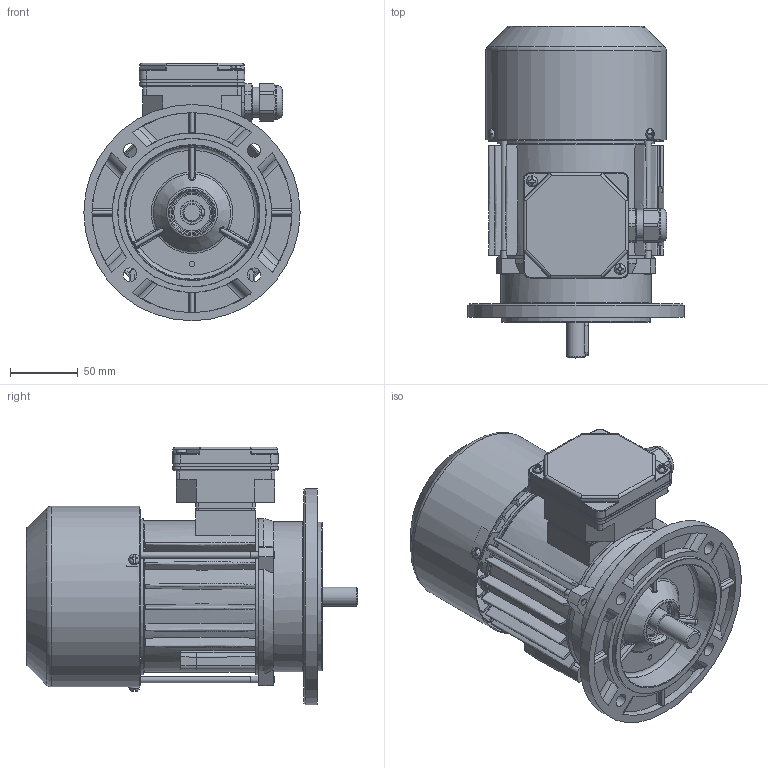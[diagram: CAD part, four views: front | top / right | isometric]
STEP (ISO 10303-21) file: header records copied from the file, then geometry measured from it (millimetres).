
FILE_DESCRIPTION( ( 'Unknown' ), '1' );
FILE_NAME( 'G:/Poczta Tk-1/STP/w.m.71/Sh71/SKh71-.B.stp', 'Unknown', ( 'K. Szlosek' ), ( 'BESEL S.A.' ), 'PSStep 17.0.49', 'Unknown', ' ' );
FILE_SCHEMA( ( 'AUTOMOTIVE_DESIGN { 1 0 10303 214 1 1 1 1 }' ) );
Length unit declared in the file: millimetre
Products named in the file (28): Assem1; K4-2820 Uszczelka nr 2 Sh71,80; Wkręt samogwintujący M4x16; K3-6469 Tarcza łożyskowa P S(E,M)h71-B,C; Wpust A5x5x25; Wkręt samogwintujący M4x8; K1-1194 Kadłub z zamkami Sh71-.B; K3-3984 Przewietrznik Sh71; K1-1244 Tarcza kołnierzowa B5 w.m. 71; K4-2320 Uszczelka nr 1 Sh71,80; K3-2975 Osłona przewietrznika Sh71-.B,C; K2-0860 Pokrywka skrzynki zaciskowej; K3-4502 wał standard Sh71-B; Nitokołek A 2x6; Łożysko 6203; Śruba ściągająca E_M5x110; Tabliczka znamionowa 32x44; Dławnica M20x1,5; K2-0859 Podstawa skrzynki 6-cio zaciskowej
Assembly tree (43 placements, depth 2):
  Assem1
    K4-2820 Uszczelka nr 2 Sh71,80
    Wkręt samogwintujący M4x16  x2
    K3-6469 Tarcza łożyskowa P S(E,M)h71-B,C
    Wpust A5x5x25
    Wkręt samogwintujący M4x8  x3
    K1-1194 Kadłub z zamkami Sh71-.B
    K3-3984 Przewietrznik Sh71
    K1-1244 Tarcza kołnierzowa B5 w.m. 71
    K4-2320 Uszczelka nr 1 Sh71,80
    K3-2975 Osłona przewietrznika Sh71-.B,C
    K2-0860 Pokrywka skrzynki zaciskowej
    K3-4502 wał standard Sh71-B
    Nitokołek A 2x6  x2
    Łożysko 6203  x2
    Łożysko 6203  x2
    Łożysko 6203  x2
    Łożysko 6203  x2
    Łożysko 6203  x2
    Łożysko 6203  x2
    Łożysko 6203  x2
    Łożysko 6203  x2
    Łożysko 6203  x2
    Łożysko 6203  x2
    Śruba ściągająca E_M5x110  x3
    Tabliczka znamionowa 32x44
    Dławnica M20x1,5
    K2-0859 Podstawa skrzynki 6-cio zaciskowej
Bounding box: 160 x 245.5 x 190.5 mm (x, y, z)
Volume: 660380.7 mm3; surface area: 438216.7 mm2
Topology: 43 solids, 59 shells, 2313 faces, 6286 edges, 4030 vertices
Faces by surface type: plane 930, cylinder 682, bspline 343, torus 175, cone 143, sphere 40
Full cylindrical faces by diameter (mm): 2 x2, 2.4 x2, 3.7 x7, 3.8 x4, 4 x6, 4.2 x3, 4.5 x1, 4.6 x3, 4.8 x4, 5 x7, 5.5 x3, 7 x1, 8 x9, 10 x4, 14 x1, 15.9 x1, 16.1 x1, 16.5 x1, 17 x4, 17.4 x2, 18.376 x1, 18.38 x1, 20 x1, 22 x2, 22.3 x1, 22.5 x1, 23 x1, 23.1 x1, 24.498 x4, 25 x1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
Entity records: 136616 total; most frequent: CARTESIAN_POINT 67802, ORIENTED_EDGE 11106, DIRECTION 9883, EDGE_CURVE 5553, AXIS2_PLACEMENT_3D 3776, VERTEX_POINT 3705, EDGE_LOOP 2549, LINE 2331
